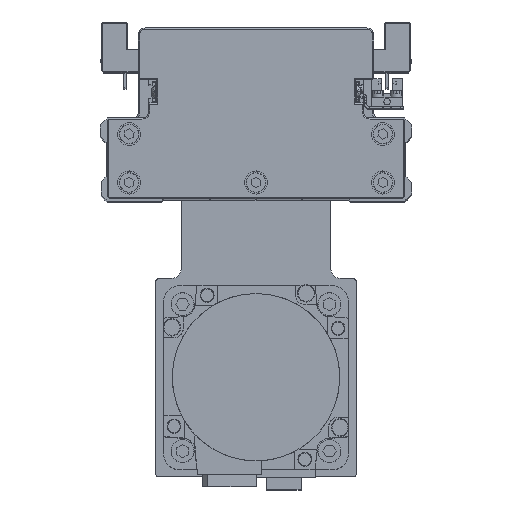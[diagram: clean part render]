
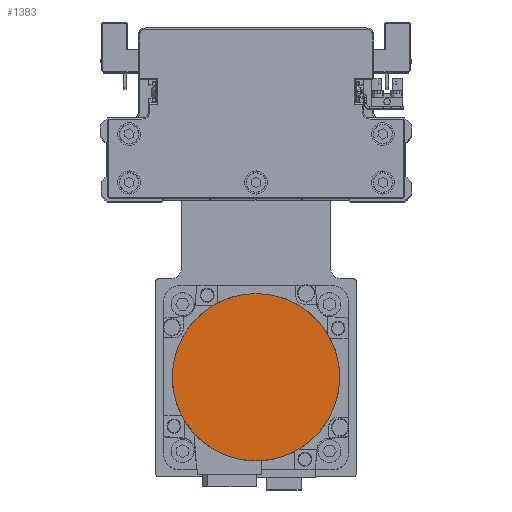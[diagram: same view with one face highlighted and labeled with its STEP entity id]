
A CAD part, top view. The second image highlights one B-rep face of the part: STEP entity #1383.
In plain terms, the highlighted planar face has unit normal (0, 0, 1) as drawn and (0, 0, -1) by its records, which use the part's own axes.
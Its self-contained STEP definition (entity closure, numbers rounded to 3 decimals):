
#111 = ORIENTED_EDGE ( 'NONE', *, *, #36842, .F. ) ;
#457 = ORIENTED_EDGE ( 'NONE', *, *, #30354, .F. ) ;
#1383 = ADVANCED_FACE ( 'NONE', ( #35560 ), #8266, .F. ) ;
#4417 = CARTESIAN_POINT ( 'NONE',  ( 0., 0., -122.2 ) ) ;
#5286 = DIRECTION ( 'NONE',  ( 1., 0., 0. ) ) ;
#5903 = VERTEX_POINT ( 'NONE', #20910 ) ;
#7444 = AXIS2_PLACEMENT_3D ( 'NONE', #20401, #32580, #5286 ) ;
#8266 = PLANE ( 'NONE',  #7444 ) ;
#8482 = CIRCLE ( 'NONE', #30742, 36.3 ) ;
#11611 = CARTESIAN_POINT ( 'NONE',  ( 0., 0., -122.2 ) ) ;
#14665 = CIRCLE ( 'NONE', #36942, 36.3 ) ;
#16566 = DIRECTION ( 'NONE',  ( 0., 0., 1. ) ) ;
#17835 = VERTEX_POINT ( 'NONE', #25215 ) ;
#20401 = CARTESIAN_POINT ( 'NONE',  ( 0., 0., -122.2 ) ) ;
#20910 = CARTESIAN_POINT ( 'NONE',  ( 0., 36.3, -122.2 ) ) ;
#23731 = DIRECTION ( 'NONE',  ( 0., 0., 1. ) ) ;
#23817 = EDGE_LOOP ( 'NONE', ( #457, #111 ) ) ;
#25215 = CARTESIAN_POINT ( 'NONE',  ( 0., -36.3, -122.2 ) ) ;
#28728 = DIRECTION ( 'NONE',  ( 0., -1., 0. ) ) ;
#30354 = EDGE_CURVE ( 'NONE', #5903, #17835, #8482, .T. ) ;
#30742 = AXIS2_PLACEMENT_3D ( 'NONE', #11611, #23731, #35906 ) ;
#32580 = DIRECTION ( 'NONE',  ( 0., 0., 1. ) ) ;
#35560 = FACE_OUTER_BOUND ( 'NONE', #23817, .T. ) ;
#35906 = DIRECTION ( 'NONE',  ( 0., 1., 0. ) ) ;
#36842 = EDGE_CURVE ( 'NONE', #17835, #5903, #14665, .T. ) ;
#36942 = AXIS2_PLACEMENT_3D ( 'NONE', #4417, #16566, #28728 ) ;
